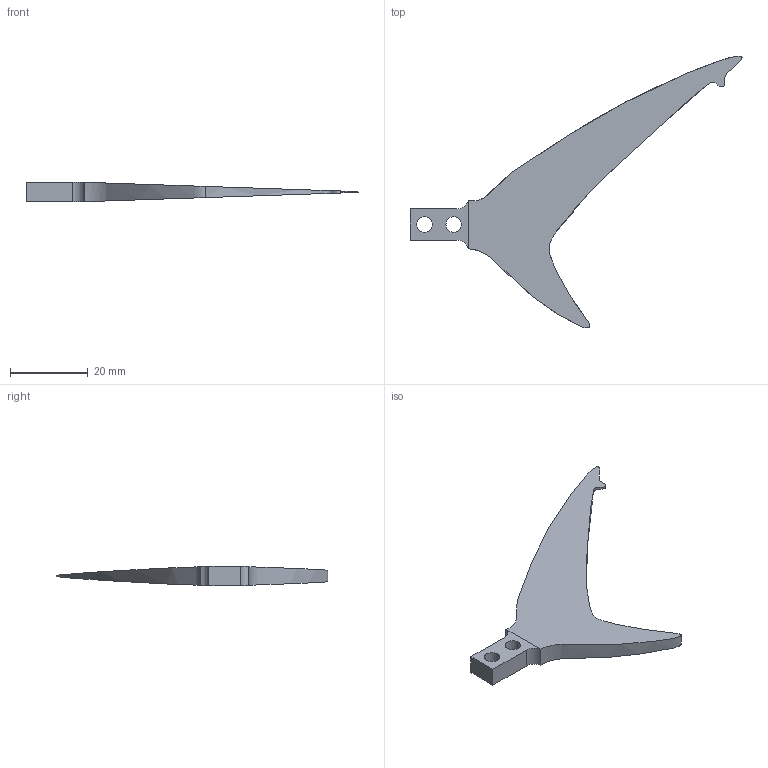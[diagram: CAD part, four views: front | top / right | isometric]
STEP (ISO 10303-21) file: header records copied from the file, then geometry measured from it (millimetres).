
FILE_DESCRIPTION(/* description */ (''),/* implementation_level */ '2;1');
FILE_NAME(/* name */ 'C:/Users/Diego/Downloads/9/Animalitos/HAMMERHEAD v1.step',/* time_stamp */ '2019-06-14T13:35:28-04:00',/* author */ ('dcortesl1410'),/* organization */ (''),/* preprocessor_version */ 'ST-DEVELOPER v18',/* originating_system */ 'Autodesk Translation Framework v8.2.0.1029',/* authorisation */ '');
FILE_SCHEMA (('AUTOMOTIVE_DESIGN { 1 0 10303 214 3 1 1 }'));
Length unit declared in the file: millimetre
Products named in the file (1): HAMMERHEAD
Bounding box: 85.48 x 69.97 x 5 mm (x, y, z)
Volume: 6935.1 mm3; surface area: 3715.7 mm2
Topology: 1 solids, 1 shells, 12 faces, 26 edges, 16 vertices
Faces by surface type: plane 7, cylinder 4, bspline 1
Full cylindrical faces by diameter (mm): 4 x2
Entity records: 707 total; most frequent: CARTESIAN_POINT 402, DIRECTION 56, ORIENTED_EDGE 52, EDGE_CURVE 26, AXIS2_PLACEMENT_3D 20, EDGE_LOOP 16, LINE 16, VECTOR 16
